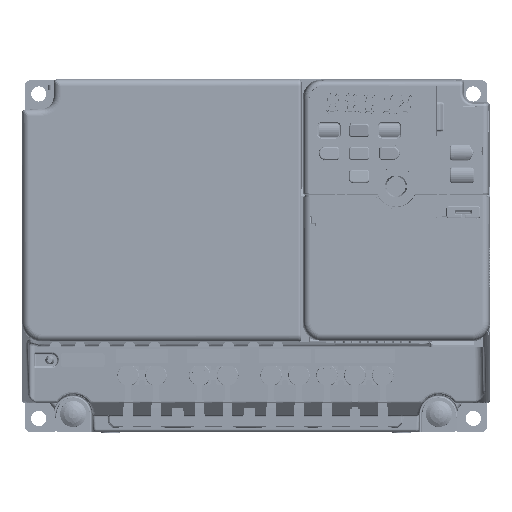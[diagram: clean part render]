
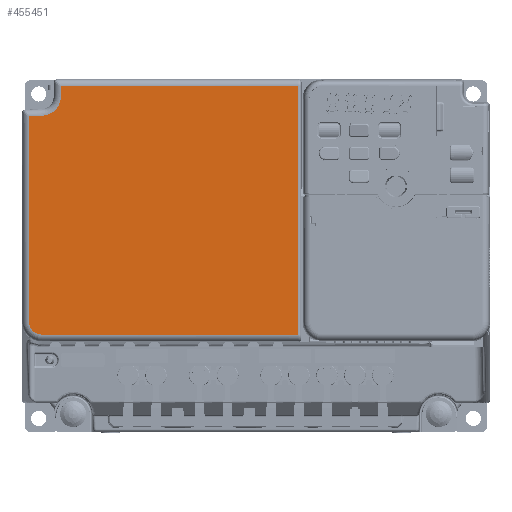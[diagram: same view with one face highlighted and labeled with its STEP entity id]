
A CAD part, top view. The second image highlights one B-rep face of the part: STEP entity #455451.
In plain terms, the highlighted planar face has unit normal (0, 0, 1).
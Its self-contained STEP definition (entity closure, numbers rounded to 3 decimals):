
#369424=CARTESIAN_POINT('',(-78.,39.697,
104.8));
#369425=DIRECTION('',(0.,0.,
-1.));
#369426=DIRECTION('',(0.,-1.,0.));
#369427=AXIS2_PLACEMENT_3D('',#369424,#369425,#369426);
#369429=DIRECTION('',(0.999,0.052,0.));
#369430=VECTOR('',#369429,4.873);
#369431=CARTESIAN_POINT('',(-82.5,114.525,104.8));
#369432=LINE('',#369431,#369430);
#369433=CARTESIAN_POINT('',(-78.,121.77,104.8));
#369434=DIRECTION('',(0.,0.,1.));
#369435=DIRECTION('',(0.052,-0.999,0.));
#369436=AXIS2_PLACEMENT_3D('',#369433,#369434,#369435);
#369442=DIRECTION('',(0.,1.,0.));
#369443=VECTOR('',#369442,90.304);
#369444=CARTESIAN_POINT('',(15.378,35.196,
104.8));
#369445=LINE('',#369444,#369443);
#369458=CARTESIAN_POINT('',(15.378,35.196,
104.8));
#369469=DIRECTION('',(1.,0.,0.));
#369470=VECTOR('',#369469,93.378);
#369471=CARTESIAN_POINT('',(-78.,35.196,
104.8));
#369472=LINE('',#369471,#369470);
#369492=DIRECTION('',(-1.,0.,0.));
#369493=VECTOR('',#369492,86.378);
#369494=CARTESIAN_POINT('',(15.378,125.5,
104.8));
#369495=LINE('',#369494,#369493);
#369523=DIRECTION('',(0.,-1.,0.));
#369524=VECTOR('',#369523,3.73);
#369525=CARTESIAN_POINT('',(-71.,125.5,104.8));
#369526=LINE('',#369525,#369524);
#369573=DIRECTION('',(0.,-1.,0.));
#369574=VECTOR('',#369573,74.828);
#369575=CARTESIAN_POINT('',(-82.5,114.525,104.8));
#369576=LINE('',#369575,#369574);
#408218=VERTEX_POINT('',#369458);
#408219=CARTESIAN_POINT('',(-78.,35.196,
104.8));
#408220=VERTEX_POINT('',#408219);
#408221=CARTESIAN_POINT('',(-82.5,39.697,
104.8));
#408222=VERTEX_POINT('',#408221);
#408223=CARTESIAN_POINT('',(15.378,125.5,
104.8));
#408224=VERTEX_POINT('',#408223);
#408225=CARTESIAN_POINT('',(-82.5,114.525,104.8));
#408226=VERTEX_POINT('',#408225);
#408227=CARTESIAN_POINT('',(-77.634,114.78,104.8));
#408228=VERTEX_POINT('',#408227);
#408229=CARTESIAN_POINT('',(-71.,121.77,104.8));
#408230=VERTEX_POINT('',#408229);
#408231=CARTESIAN_POINT('',(-71.,125.5,104.8));
#408232=VERTEX_POINT('',#408231);
#455429=CARTESIAN_POINT('',(0.,0.,104.8));
#455430=DIRECTION('',(0.,0.,1.));
#455431=DIRECTION('',(1.,0.,0.));
#455432=AXIS2_PLACEMENT_3D('',#455429,#455430,#455431);
#455433=PLANE('',#455432);
#455435=ORIENTED_EDGE('',*,*,#455434,.F.);
#455437=ORIENTED_EDGE('',*,*,#455436,.F.);
#455438=ORIENTED_EDGE('',*,*,#455419,.T.);
#455440=ORIENTED_EDGE('',*,*,#455439,.F.);
#455442=ORIENTED_EDGE('',*,*,#455441,.T.);
#455444=ORIENTED_EDGE('',*,*,#455443,.T.);
#455446=ORIENTED_EDGE('',*,*,#455445,.F.);
#455448=ORIENTED_EDGE('',*,*,#455447,.F.);
#455449=EDGE_LOOP('',(#455435,#455437,#455438,#455440,#455442,#455444,#455446,
#455448));
#455450=FACE_OUTER_BOUND('',#455449,.F.);
#455451=ADVANCED_FACE('',(#455450),#455433,.T.);
#369428=CIRCLE('',#369427,4.5);
#369437=CIRCLE('',#369436,7.);
#455419=EDGE_CURVE('',#408220,#408222,#369428,.T.);
#455434=EDGE_CURVE('',#408218,#408224,#369445,.T.);
#455436=EDGE_CURVE('',#408220,#408218,#369472,.T.);
#455439=EDGE_CURVE('',#408226,#408222,#369576,.T.);
#455441=EDGE_CURVE('',#408226,#408228,#369432,.T.);
#455443=EDGE_CURVE('',#408228,#408230,#369437,.T.);
#455445=EDGE_CURVE('',#408232,#408230,#369526,.T.);
#455447=EDGE_CURVE('',#408224,#408232,#369495,.T.);
